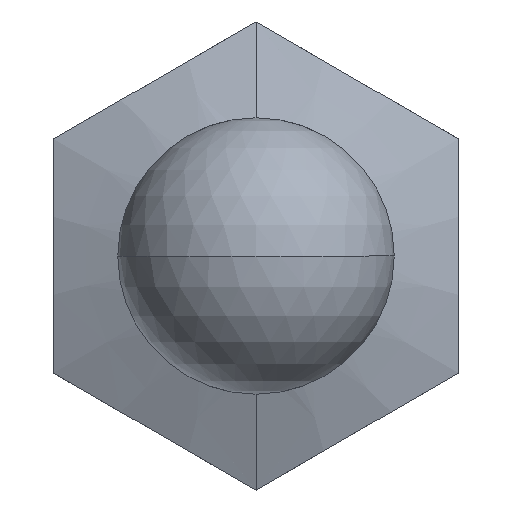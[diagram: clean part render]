
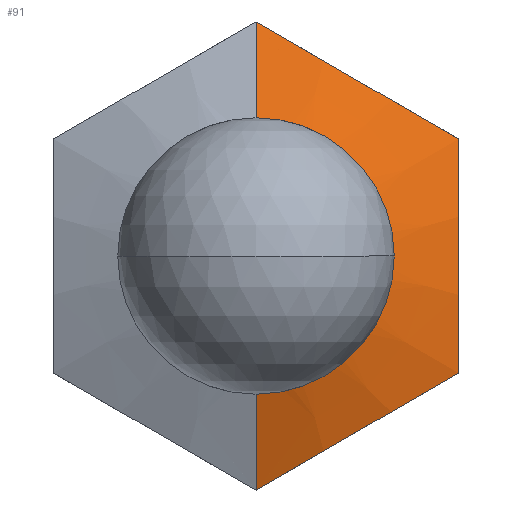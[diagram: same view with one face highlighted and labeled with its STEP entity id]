
A CAD part, front view. The second image highlights one B-rep face of the part: STEP entity #91.
In plain terms, the highlighted conical face has half-angle 70 degrees and reference radius 12.7 mm.
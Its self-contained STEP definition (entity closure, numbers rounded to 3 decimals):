
#91=ADVANCED_FACE('NONE',(#205),#206,.T.);
#205=FACE_OUTER_BOUND('',#340,.T.);
#206=CONICAL_SURFACE('',#341,12.7,1.222);
#340=EDGE_LOOP('',(#532,#533,#534,#535,#536,#537,#538,#539,#540,#541));
#341=AXIS2_PLACEMENT_3D('',#542,#543,#544);
#532=ORIENTED_EDGE('',*,*,#845,.T.);
#533=ORIENTED_EDGE('',*,*,#865,.T.);
#534=ORIENTED_EDGE('',*,*,#823,.F.);
#535=ORIENTED_EDGE('',*,*,#866,.T.);
#536=ORIENTED_EDGE('',*,*,#867,.F.);
#537=ORIENTED_EDGE('',*,*,#868,.T.);
#538=ORIENTED_EDGE('',*,*,#869,.F.);
#539=ORIENTED_EDGE('',*,*,#870,.T.);
#540=ORIENTED_EDGE('',*,*,#871,.F.);
#541=ORIENTED_EDGE('',*,*,#872,.F.);
#542=CARTESIAN_POINT('',(0.0,-8.061,0.0));
#543=DIRECTION('',(-0.0,1.0,-0.0));
#544=DIRECTION('',(0.0,0.0,1.0));
#823=EDGE_CURVE('NONE',#980,#976,#982,.T.);
#845=EDGE_CURVE('NONE',#1018,#1016,#1019,.T.);
#865=EDGE_CURVE('NONE',#1016,#976,#1046,.T.);
#866=EDGE_CURVE('NONE',#980,#1047,#1048,.T.);
#867=EDGE_CURVE('NONE',#1049,#1047,#1050,.T.);
#868=EDGE_CURVE('NONE',#1049,#1051,#1052,.T.);
#869=EDGE_CURVE('NONE',#1053,#1051,#1054,.T.);
#870=EDGE_CURVE('NONE',#1053,#1055,#1056,.T.);
#871=EDGE_CURVE('NONE',#1057,#1055,#1058,.T.);
#872=EDGE_CURVE('NONE',#1018,#1057,#1059,.T.);
#976=VERTEX_POINT('NONE',#1196);
#980=VERTEX_POINT('NONE',#1201);
#982=CIRCLE('',#1204,12.7);
#1016=VERTEX_POINT('NONE',#1240);
#1018=VERTEX_POINT('NONE',#1243);
#1019=CIRCLE('',#1244,6.);
#1046=LINE('',#1286,#1287);
#1047=VERTEX_POINT('NONE',#1288);
#1048=B_SPLINE_CURVE_WITH_KNOTS('',3,(#1289,#1290,#1291,#1292,#1293,#1294,#1295,#1296,#1297),.UNSPECIFIED.,.F.,.F.,(4,2,1,2,4),(0.,0.003,0.006,0.01,0.013),.UNSPECIFIED.);
#1049=VERTEX_POINT('NONE',#1298);
#1050=CIRCLE('',#1299,12.7);
#1051=VERTEX_POINT('NONE',#1300);
#1052=B_SPLINE_CURVE_WITH_KNOTS('',3,(#1301,#1302,#1303,#1304,#1305,#1306,#1307,#1308,#1309,#1310),.UNSPECIFIED.,.F.,.F.,(4,2,2,2,4),(0.011,0.014,0.017,0.02,0.023),.UNSPECIFIED.);
#1053=VERTEX_POINT('NONE',#1311);
#1054=CIRCLE('',#1312,12.7);
#1055=VERTEX_POINT('NONE',#1313);
#1056=B_SPLINE_CURVE_WITH_KNOTS('',3,(#1314,#1315,#1316,#1317,#1318,#1319,#1320,#1321,#1322),.UNSPECIFIED.,.F.,.F.,(4,2,1,2,4),(0.,0.003,0.006,0.01,0.013),.UNSPECIFIED.);
#1057=VERTEX_POINT('NONE',#1323);
#1058=CIRCLE('',#1324,12.7);
#1059=LINE('',#1325,#1326);
#1196=CARTESIAN_POINT('',(0.,-8.061,-12.7));
#1201=CARTESIAN_POINT('',(0.003,-8.061,-12.7));
#1204=AXIS2_PLACEMENT_3D('',#1568,#1569,#1570);
#1240=CARTESIAN_POINT('',(0.,-10.5,-6.));
#1243=CARTESIAN_POINT('',(0.0,-10.5,6.));
#1244=AXIS2_PLACEMENT_3D('',#1613,#1614,#1615);
#1286=CARTESIAN_POINT('',(0.,-8.061,-12.7));
#1287=VECTOR('',#1639,1000.0);
#1288=CARTESIAN_POINT('',(10.997,-8.061,-6.353));
#1289=CARTESIAN_POINT('',(0.003,-8.061,-12.7));
#1290=CARTESIAN_POINT('',(0.919,-8.254,-12.171));
#1291=CARTESIAN_POINT('',(1.835,-8.41,-11.642));
#1292=CARTESIAN_POINT('',(3.668,-8.624,-10.584));
#1293=CARTESIAN_POINT('',(5.5,-8.737,-9.526));
#1294=CARTESIAN_POINT('',(7.332,-8.624,-8.468));
#1295=CARTESIAN_POINT('',(9.165,-8.41,-7.41));
#1296=CARTESIAN_POINT('',(10.081,-8.254,-6.882));
#1297=CARTESIAN_POINT('',(10.997,-8.061,-6.353));
#1298=CARTESIAN_POINT('',(11.0,-8.061,-6.347));
#1299=AXIS2_PLACEMENT_3D('',#1640,#1641,#1642);
#1300=CARTESIAN_POINT('',(11.0,-8.061,6.347));
#1301=CARTESIAN_POINT('',(11.0,-8.061,-6.347));
#1302=CARTESIAN_POINT('',(11.0,-8.253,-5.295));
#1303=CARTESIAN_POINT('',(11.0,-8.41,-4.231));
#1304=CARTESIAN_POINT('',(11.0,-8.624,-2.109));
#1305=CARTESIAN_POINT('',(11.0,-8.68,-1.049));
#1306=CARTESIAN_POINT('',(11.0,-8.68,1.069));
#1307=CARTESIAN_POINT('',(11.0,-8.623,2.126));
#1308=CARTESIAN_POINT('',(11.0,-8.409,4.238));
#1309=CARTESIAN_POINT('',(11.0,-8.253,5.294));
#1310=CARTESIAN_POINT('',(11.0,-8.061,6.347));
#1311=CARTESIAN_POINT('',(10.997,-8.061,6.353));
#1312=AXIS2_PLACEMENT_3D('',#1643,#1644,#1645);
#1313=CARTESIAN_POINT('',(0.003,-8.061,12.7));
#1314=CARTESIAN_POINT('',(10.997,-8.061,6.353));
#1315=CARTESIAN_POINT('',(10.081,-8.254,6.882));
#1316=CARTESIAN_POINT('',(9.165,-8.41,7.41));
#1317=CARTESIAN_POINT('',(7.332,-8.624,8.468));
#1318=CARTESIAN_POINT('',(5.5,-8.737,9.526));
#1319=CARTESIAN_POINT('',(3.668,-8.624,10.584));
#1320=CARTESIAN_POINT('',(1.835,-8.41,11.642));
#1321=CARTESIAN_POINT('',(0.919,-8.254,12.171));
#1322=CARTESIAN_POINT('',(0.003,-8.061,12.7));
#1323=CARTESIAN_POINT('',(0.0,-8.061,12.7));
#1324=AXIS2_PLACEMENT_3D('',#1646,#1647,#1648);
#1325=CARTESIAN_POINT('',(0.0,-8.061,12.7));
#1326=VECTOR('',#1649,1000.0);
#1568=CARTESIAN_POINT('',(0.0,-8.061,0.0));
#1569=DIRECTION('',(-0.0,1.0,0.0));
#1570=DIRECTION('',(0.0,0.0,1.0));
#1613=CARTESIAN_POINT('',(0.0,-10.5,0.0));
#1614=DIRECTION('',(-0.0,1.0,0.0));
#1615=DIRECTION('',(0.0,0.0,1.0));
#1639=DIRECTION('',(0.,0.342,-0.94));
#1640=CARTESIAN_POINT('',(0.0,-8.061,0.0));
#1641=DIRECTION('',(-0.0,1.0,0.0));
#1642=DIRECTION('',(0.0,0.0,1.0));
#1643=CARTESIAN_POINT('',(0.0,-8.061,0.0));
#1644=DIRECTION('',(-0.0,1.0,0.0));
#1645=DIRECTION('',(0.0,0.0,1.0));
#1646=CARTESIAN_POINT('',(0.0,-8.061,0.0));
#1647=DIRECTION('',(-0.0,1.0,0.0));
#1648=DIRECTION('',(0.0,0.0,1.0));
#1649=DIRECTION('',(0.0,0.342,0.94));
